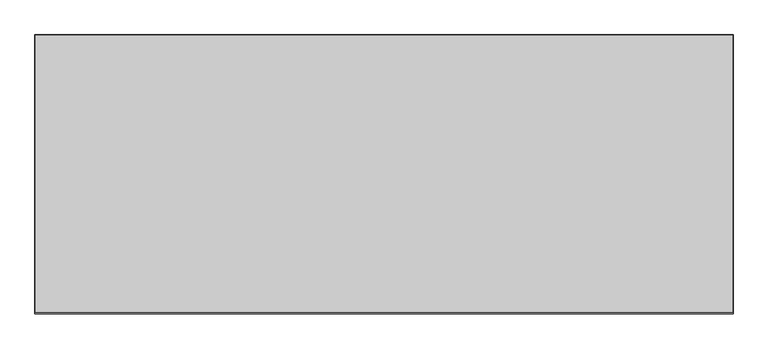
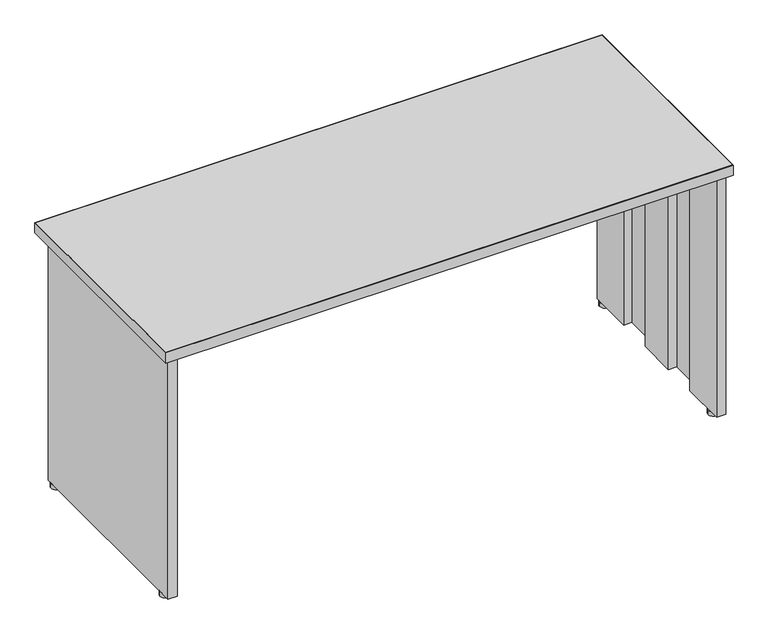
"""IFC4 building model written with IfcOpenShell, lengths in millimetres: furniture geometry, Steelcase - Kick Freestanding - Desk Shell - Partial Height Modesty Panel : 24D x 60W."""

import ifcopenshell
import ifcopenshell.guid

model = None  # the IFC model being written
_history = None  # IfcOwnerHistory: only IFC2X3 demands one
_inside = {}  # id of a spatial element -> (the spatial element, [elements in it])
_under = {}  # id of a project, library or spatial element -> (it, [spatial elements below it])
_declared = {}  # id of a project -> (the project, [libraries it declares])
_typed = {}  # id of a type object -> (the type object, [elements of that type])
_made_of = {}  # id of a material, layer set ... -> (it, [elements and type objects made of it])


def new_model(schema):
    """Start an empty IFC model of exactly this schema.

    Asked for "IFC4X3", IfcOpenShell would pick the latest addendum, in which some entities
    have other attributes; the version numbers below select the first issue.
    IFC2X3 requires an IfcOwnerHistory on every rooted entity: one is made here for all.
    """
    global model, _history
    if schema == "IFC4X3":
        model = ifcopenshell.file(schema_version=(4, 3, 0, 0))
    else:
        model = ifcopenshell.file(schema=schema)
    _inside.clear()
    _under.clear()
    _declared.clear()
    _typed.clear()
    _made_of.clear()
    _history = None
    if model.schema == "IFC2X3":
        org = make("IfcOrganization", Name="unknown")
        user = make(
            "IfcPersonAndOrganization",
            ThePerson=make("IfcPerson", FamilyName="unknown"),
            TheOrganization=org,
        )
        app = make(
            "IfcApplication",
            ApplicationDeveloper=org,
            Version="unknown",
            ApplicationFullName="unknown",
            ApplicationIdentifier="unknown",
        )
        _history = make(
            "IfcOwnerHistory",
            OwningUser=user,
            OwningApplication=app,
            ChangeAction="ADDED",
            CreationDate=0,
        )
    return model


def make(cls, **values):
    """One entity of the class cls with the attributes given. An attribute that is None is left unset."""
    return model.create_entity(
        cls, **{name: value for name, value in values.items() if value is not None}
    )


def rooted(cls, **values):
    """An entity with a GlobalId (a new one), such as an element, a storey or a relation."""
    return make(cls, GlobalId=ifcopenshell.guid.new(), OwnerHistory=_history, **values)


def si_unit(unit_type, name, prefix=None):
    """IfcSIUnit, for example si_unit("LENGTHUNIT", "METRE", prefix="MILLI")."""
    return make("IfcSIUnit", UnitType=unit_type, Prefix=prefix, Name=name)


def assignment(units):
    """IfcUnitAssignment: the units of a project."""
    return None if units is None else make("IfcUnitAssignment", Units=units)


def point(xyz):
    """IfcCartesianPoint."""
    return None if xyz is None else make("IfcCartesianPoint", Coordinates=xyz)


def direction(xyz):
    """IfcDirection."""
    return None if xyz is None else make("IfcDirection", DirectionRatios=xyz)


def frame(location, z_axis=None, x_axis=None):
    """IfcAxis2Placement3D, a coordinate frame: its origin and axes. An axis left out is left unset."""
    return make(
        "IfcAxis2Placement3D",
        Location=point(location),
        Axis=direction(z_axis),
        RefDirection=direction(x_axis),
    )


def frame_2d(location, x_axis=None):
    """IfcAxis2Placement2D, a coordinate frame in the plane: its origin and x axis."""
    return make(
        "IfcAxis2Placement2D", Location=point(location), RefDirection=direction(x_axis)
    )


def origin():
    """The frame at (0, 0, 0) with its axes left unset."""
    return frame((0.0, 0.0, 0.0))


def origin_with_axes():
    """The frame at (0, 0, 0) with the z axis (0, 0, 1) and the x axis (1, 0, 0) written out."""
    return frame((0.0, 0.0, 0.0), z_axis=(0.0, 0.0, 1.0), x_axis=(1.0, 0.0, 0.0))


def place(relative_to, where):
    """IfcLocalPlacement: puts the frame where relative to a parent placement (None: the world)."""
    return make(
        "IfcLocalPlacement", PlacementRelTo=relative_to, RelativePlacement=where
    )


def context(
    kind, dimensions, precision=None, world=None, true_north=None, identifier=None
):
    """IfcGeometricRepresentationContext, for example the 3D "Model" context."""
    return make(
        "IfcGeometricRepresentationContext",
        ContextIdentifier=identifier,
        ContextType=kind,
        CoordinateSpaceDimension=dimensions,
        Precision=precision,
        WorldCoordinateSystem=world,
        TrueNorth=true_north,
    )


def project(units=None, contexts=None):
    """IfcProject with its units and contexts."""
    return rooted(
        "IfcProject",
        Name="project",
        RepresentationContexts=contexts,
        UnitsInContext=assignment(units),
    )


def spatial(cls, under=None, at=None, **own):
    """A site, building, storey or space (cls), placed at a placement, below another one or the project."""
    s = rooted(cls, ObjectPlacement=at, **own)
    if under is not None:
        _under.setdefault(under.id(), (under, []))[1].append(s)
    return s


def polyline(points):
    """IfcPolyline through the points."""
    return make("IfcPolyline", Points=[point(p) for p in points])


def circle_curve(where, radius):
    """IfcCircle in the frame where."""
    return make("IfcCircle", Position=where, Radius=radius)


def trimmed(basis, trim1, trim2, sense, master):
    """IfcTrimmedCurve: the piece of a basis curve between two trims."""
    return make(
        "IfcTrimmedCurve",
        BasisCurve=basis,
        Trim1=trim1,
        Trim2=trim2,
        SenseAgreement=sense,
        MasterRepresentation=master,
    )


def segment(curve, same_sense, transition):
    """IfcCompositeCurveSegment."""
    return make(
        "IfcCompositeCurveSegment",
        Transition=transition,
        SameSense=same_sense,
        ParentCurve=curve,
    )


def composite_curve(segments, self_intersect=None):
    """IfcCompositeCurve: segments joined end to end."""
    return make("IfcCompositeCurve", Segments=segments, SelfIntersect=self_intersect)


def outline(outer, holes=None, kind="AREA"):
    """IfcArbitraryClosedProfileDef: a profile drawn as a closed curve; with holes, ...WithVoids."""
    if holes is None:
        return make("IfcArbitraryClosedProfileDef", ProfileType=kind, OuterCurve=outer)
    return make(
        "IfcArbitraryProfileDefWithVoids",
        ProfileType=kind,
        OuterCurve=outer,
        InnerCurves=holes,
    )


def extrude(swept, where, along, depth):
    """IfcExtrudedAreaSolid: the profile swept, set in the frame where, extruded along a direction by depth."""
    return make(
        "IfcExtrudedAreaSolid",
        SweptArea=swept,
        Position=where,
        ExtrudedDirection=direction(along),
        Depth=depth,
    )


def shape(context_of_items, identifier, shape_type, items):
    """IfcShapeRepresentation: the items that make up one representation, for example the "Body"."""
    return make(
        "IfcShapeRepresentation",
        ContextOfItems=context_of_items,
        RepresentationIdentifier=identifier,
        RepresentationType=shape_type,
        Items=items,
    )


def source(mapping_origin, context_of_items, identifier, shape_type, items):
    """IfcRepresentationMap: a shape defined once, which mapped items show again and again."""
    return make(
        "IfcRepresentationMap",
        MappingOrigin=mapping_origin,
        MappedRepresentation=shape(context_of_items, identifier, shape_type, items),
    )


def transform(
    local_origin,
    x_axis=None,
    y_axis=None,
    z_axis=None,
    scale=None,
    scale2=None,
    scale3=None,
    uniform=True,
):
    """IfcCartesianTransformationOperator3D, or its non-uniform kind. x_axis, y_axis, z_axis: its Axis1, 2, 3."""
    if uniform:
        return make(
            "IfcCartesianTransformationOperator3D",
            Axis1=direction(x_axis),
            Axis2=direction(y_axis),
            LocalOrigin=point(local_origin),
            Scale=scale,
            Axis3=direction(z_axis),
        )
    return make(
        "IfcCartesianTransformationOperator3DnonUniform",
        Axis1=direction(x_axis),
        Axis2=direction(y_axis),
        LocalOrigin=point(local_origin),
        Scale=scale,
        Axis3=direction(z_axis),
        Scale2=scale2,
        Scale3=scale3,
    )


def mapped(mapping_source, mapping_target):
    """IfcMappedItem: shows the shape of a source again, moved by a transform."""
    return make(
        "IfcMappedItem", MappingSource=mapping_source, MappingTarget=mapping_target
    )


def made_of(thing, what):
    """Note that an element or type object is made of a material, layer set ...; save() writes the relation."""
    if what is not None:
        _made_of.setdefault(what.id(), (what, []))[1].append(thing)
    return thing


def element(
    cls,
    number,
    at=None,
    inside=None,
    cuts=None,
    type_object=None,
    material=None,
    context=None,
    identifier="Body",
    shape_type=None,
    held_by="IfcProductDefinitionShape",
    body=None,
    shapes=None,
    **own,
):
    """One element of the class cls, such as IfcWall. Its Tag is "e" and its number.

    at: its placement. inside: the storey or other place that contains it. cuts: it is an
    opening in that element (IfcRelVoidsElement). A single representation is given by context,
    identifier, shape_type and body (its items); several are given by shapes. held_by: the class
    of the entity that holds the representations. save() writes the other relations.
    """
    e = rooted(cls, Tag="e%d" % number, ObjectPlacement=at, **own)
    if body is not None:
        shapes = [shape(context, identifier, shape_type, body)]
    if shapes is not None:
        e.Representation = make(held_by, Representations=shapes)
    if inside is not None:
        _inside.setdefault(inside.id(), (inside, []))[1].append(e)
    if cuts is not None:
        rooted(
            "IfcRelVoidsElement", RelatingBuildingElement=cuts, RelatedOpeningElement=e
        )
    if type_object is not None:
        _typed.setdefault(type_object.id(), (type_object, []))[1].append(e)
    return made_of(e, material)


def aggregate(whole, parts):
    """IfcRelAggregates: a whole, such as a stair, and the parts it consists of."""
    return rooted("IfcRelAggregates", RelatingObject=whole, RelatedObjects=parts)


def save(model, path):
    """Write the relations noted so far, then the file.

    IfcRelAggregates (storeys below a building ...), IfcRelContainedInSpatialStructure (elements
    in a storey), IfcRelDefinesByType, IfcRelAssociatesMaterial and IfcRelDeclares: one each for
    every whole, place, type object, material and project.
    """
    for whole, parts in _under.values():
        aggregate(whole, parts)
    for where, things in _inside.values():
        rooted(
            "IfcRelContainedInSpatialStructure",
            RelatedElements=things,
            RelatingStructure=where,
        )
    for kind, things in _typed.values():
        rooted("IfcRelDefinesByType", RelatedObjects=things, RelatingType=kind)
    for what, things in _made_of.values():
        rooted("IfcRelAssociatesMaterial", RelatedObjects=things, RelatingMaterial=what)
    for by, libraries in _declared.values():
        rooted("IfcRelDeclares", RelatingContext=by, RelatedDefinitions=libraries)
    model.write(path)


def furniture_08f6eeca(model_context):
    return source(origin(), model_context, "Body", "SweptSolid", [
        extrude(outline(polyline([(677.0450425, -999.9647597), (677.0450425, -974.5647604), (2126.6738425, -974.5647604), (2126.6738425, -999.9647597), (677.0450425, -999.9647597)])), frame((0.0, 0.0, 390.144), z_axis=(0.0, 0.0, 1.0), x_axis=(1.0, 0.0, 0.0)), (0.0, 0.0, 1.0), 304.8),
        extrude(outline(composite_curve([segment(trimmed(circle_curve(frame_2d((665.1357759, -986.9367877)), 13.97), [point((651.1657759, -986.9367877))], [point((679.1057759, -986.9367877))], False, "CARTESIAN"), True, "CONTINUOUS"), segment(trimmed(circle_curve(frame_2d((665.1357759, -986.9367877)), 13.97), [point((679.1057759, -986.9367877))], [point((651.1657759, -986.9367877))], False, "CARTESIAN"), True, "CONTINUOUS")], self_intersect=False)), origin_with_axes(), (0.0, 0.0, 1.0), 12.446),
        extrude(outline(composite_curve([segment(trimmed(circle_curve(frame_2d((665.1357759, -1493.6441481)), 13.97), [point((651.1657759, -1493.6441481))], [point((679.1057759, -1493.6441481))], False, "CARTESIAN"), True, "CONTINUOUS"), segment(trimmed(circle_curve(frame_2d((665.1357759, -1493.6441481)), 13.97), [point((679.1057759, -1493.6441481))], [point((651.1657759, -1493.6441481))], False, "CARTESIAN"), True, "CONTINUOUS")], self_intersect=False)), origin_with_axes(), (0.0, 0.0, 1.0), 12.446),
        extrude(outline(polyline([(2126.6738425, -1096.0529604), (2126.6738425, -972.7867604), (2151.1594421, -972.7867604), (2151.1594421, -1528.538741), (2126.6738421, -1528.538741), (2126.6738421, -1404.2311348), (2149.1020425, -1404.2311348), (2149.1020425, -1304.5107682), (2126.6738421, -1304.5107682), (2126.6738421, -1195.7733647), (2149.1020425, -1195.7733647), (2149.1020425, -1096.0529604), (2126.6738425, -1096.0529604)])), frame((0.0, 0.0, 12.446), z_axis=(0.0, 0.0, 1.0), x_axis=(1.0, 0.0, 0.0)), (0.0, 0.0, 1.0), 682.498),
        extrude(outline(polyline([(677.0450425, -1096.0529604), (654.6168425, -1096.0529604), (654.6168425, -1195.7733647), (677.0450429, -1195.7733647), (677.0450429, -1304.5107682), (654.6168425, -1304.5107682), (654.6168425, -1404.2311348), (677.0450429, -1404.2311348), (677.0450429, -1528.538741), (652.5594429, -1528.538741), (652.5594429, -972.7867604), (677.0450425, -972.7867604), (677.0450425, -1096.0529604)])), frame((0.0, 0.0, 12.446), z_axis=(0.0, 0.0, 1.0), x_axis=(1.0, 0.0, 0.0)), (0.0, 0.0, 1.0), 682.498),
        extrude(outline(polyline([(2162.8688425, -932.6293604), (2162.8688425, -1538.2669215), (640.8500425, -1538.2669215), (640.8500425, -932.6293604), (2162.8688425, -932.6293604)])), frame((0.0, 0.0, 694.944), z_axis=(0.0, 0.0, 1.0), x_axis=(1.0, 0.0, 0.0)), (0.0, 0.0, 1.0), 28.956),
        extrude(outline(polyline([(2163.8594425, -931.6387604), (2163.8594425, -1541.2387604), (639.8594425, -1541.2387604), (639.8594425, -931.6387604), (2163.8594425, -931.6387604)]), holes=[polyline([(2162.8688425, -932.6293604), (640.8500425, -932.6293604), (640.8500425, -1538.2669215), (2162.8688425, -1538.2669215), (2162.8688425, -932.6293604)])]), frame((0.0, 0.0, 694.944), z_axis=(0.0, 0.0, 1.0), x_axis=(1.0, 0.0, 0.0)), (0.0, 0.0, 1.0), 28.956),
        extrude(outline(composite_curve([segment(trimmed(circle_curve(frame_2d((2138.5831091, -1493.6441481)), 13.97), [point((2124.6131091, -1493.6441481))], [point((2152.5531091, -1493.6441481))], False, "CARTESIAN"), True, "CONTINUOUS"), segment(trimmed(circle_curve(frame_2d((2138.5831091, -1493.6441481)), 13.97), [point((2152.5531091, -1493.6441481))], [point((2124.6131091, -1493.6441481))], False, "CARTESIAN"), True, "CONTINUOUS")], self_intersect=False)), origin_with_axes(), (0.0, 0.0, 1.0), 12.446),
        extrude(outline(composite_curve([segment(trimmed(circle_curve(frame_2d((2138.5831091, -986.9367877)), 13.97), [point((2152.5531091, -986.9367877))], [point((2124.6131091, -986.9367877))], False, "CARTESIAN"), True, "CONTINUOUS"), segment(trimmed(circle_curve(frame_2d((2138.5831091, -986.9367877)), 13.97), [point((2124.6131091, -986.9367877))], [point((2152.5531091, -986.9367877))], False, "CARTESIAN"), True, "CONTINUOUS")], self_intersect=False)), origin_with_axes(), (0.0, 0.0, 1.0), 12.446),
    ])


if __name__ == "__main__":
    model = new_model("IFC4")
    model_context = context("Model", 3, world=origin())
    ifc_project = project(units=[si_unit("LENGTHUNIT", "METRE", prefix="MILLI")], contexts=[model_context])
    site = spatial("IfcSite", under=ifc_project)
    building = spatial("IfcBuilding", under=site)
    placement = place(None, origin())
    furniture_shape = furniture_08f6eeca(model_context)
    element("IfcFurniture", 1, ObjectType="Steelcase - Kick Freestanding - Desk Shell - Partial Height Modesty Panel : 24D x 60W", at=placement, inside=building, context=model_context, shape_type="MappedRepresentation", body=[
        mapped(furniture_shape, transform((0.0, 0.0, 0.0), x_axis=(1.0, 0.0, 0.0), y_axis=(0.0, 1.0, 0.0), z_axis=(0.0, 0.0, 1.0))),
    ])
    save(model, "model.ifc")
